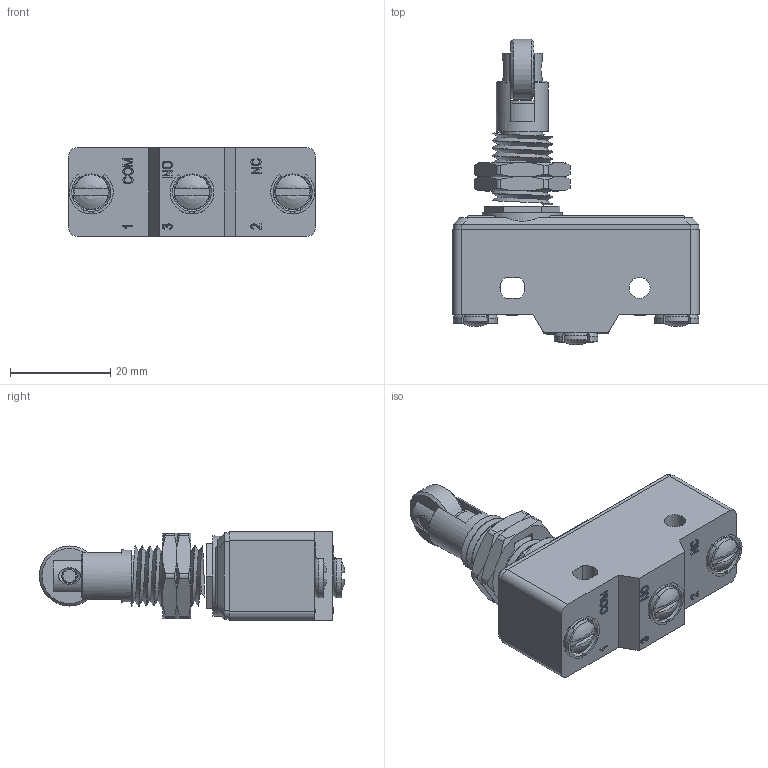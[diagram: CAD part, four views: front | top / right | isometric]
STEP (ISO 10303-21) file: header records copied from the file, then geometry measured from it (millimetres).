
FILE_DESCRIPTION((''),'2; 1');
FILE_NAME('','2026-03-27T16:24:13',(''),(''),'CST STEP Exporter V1.0','Unknown','');
FILE_SCHEMA(('CONFIG_CONTROL_DESIGN'));
Length unit declared in the file: metre
Assembly tree (15 placements, depth 2):
  (unnamed)
    (unnamed)
    (unnamed)
    (unnamed)
    (unnamed)
    (unnamed)
    (unnamed)
    (unnamed)
    (unnamed)
    (unnamed)
    (unnamed)
    (unnamed)
    (unnamed)
    (unnamed)
    (unnamed)
    (unnamed)
Bounding box: 49.4 x 61.01 x 17.7 mm (x, y, z)
Surface area: 18038 mm2 (no closed solid volume)
Topology: 0 solids, 19 shells, 472 faces, 1337 edges, 899 vertices
Faces by surface type: plane 307, extrusion 61, cylinder 57, cone 32, torus 6, revolution 6, bspline 3
Full cylindrical faces by diameter (mm): 1.2 x1, 2.1 x1, 2.3 x1, 3 x1, 3.1 x1, 4.2 x1, 6.9 x3, 8 x1, 8.1 x1, 8.3 x1, 10.4 x1, 12 x2, 16 x1
Entity records: 21266 total; most frequent: CARTESIAN_POINT 5913, ORIENTED_EDGE 2413, DIRECTION 1996, EDGE_CURVE 1305, VECTOR 941, VERTEX_POINT 887, LINE 880, EDGE_LOOP 551
